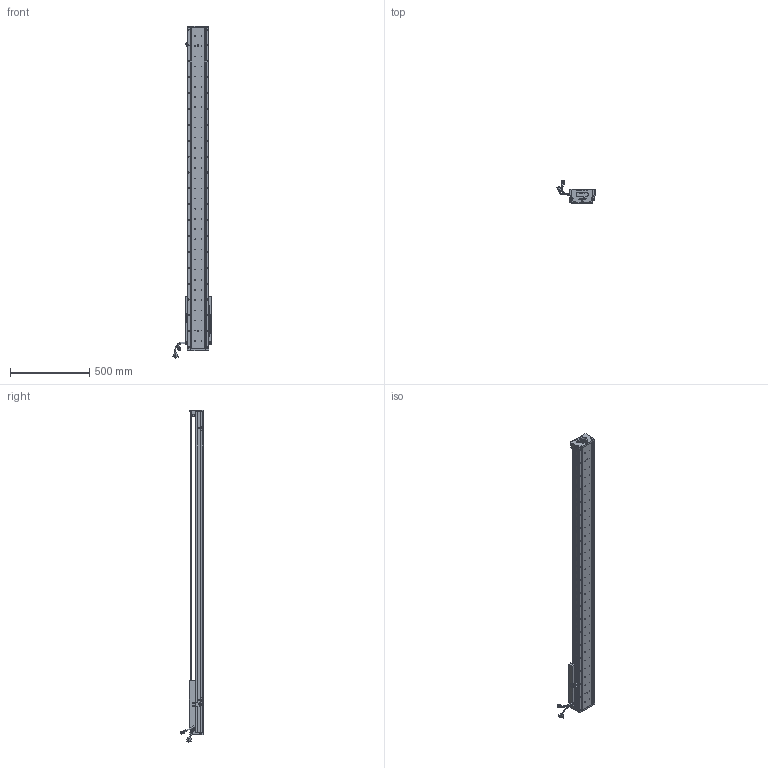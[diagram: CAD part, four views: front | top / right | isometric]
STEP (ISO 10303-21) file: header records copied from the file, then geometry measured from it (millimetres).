
FILE_DESCRIPTION (( 'STEP AP203' ), '1' );
FILE_NAME ('Z4-RY140D-1-L500-B-K.SLDASM_1650.step', '2021-05-17T08:17:08', ( '盈信电脑' ), ( '东莞市道滘镇水果街19号' ), 'SwSTEP 2.0', 'SolidWorks 2016', '' );
FILE_SCHEMA (( 'CONFIG_CONTROL_DESIGN' ));
Length unit declared in the file: millimetre
Products named in the file (36): HARNESS-Part-1; SCREW-M1.7; 140雄赽晤鎢ん堤盄; HARNESS; 080黍杅芛假蚾釱21遴; SEAL; Z-RY140感应器672光电感应片; SCREW-M1.7-1; SCREW-M1.6-3; SCREW-M1.6-1; COVER-Part-1; Z4-RY140D-1-L500-B-K.SLDASM_1650; SCALE; SCALE-Part-1; LABEL; PSLH080_PSLF2; Z-140詩湍傷裔啣; Z4-RY140圉猾敕臏賑輸(21遴); Z4-RY140-L500詩湍100mm遵_1650; 140-Z-臏賑輸盄裔(21遴); 詩湍狟揤裔; SCALE-Part-2; LABEL-Part-1; SHIELDPLATE; 140蚥薯蝶輸; HARNESS-Part-2; 榋妏寠巭燃_暯_M2_2; 覜茼ん672; SCREW-M1.6-2; 詩湍奻揤裔; HOLDER0; SCREW-M1.6; COVER; PBU_SHEET; Z4-RY140-L500直线电机模组底座_1650; SEAL-Part-1
Assembly tree (41 placements, depth 4):
  Z4-RY140D-1-L500-B-K.SLDASM_1650
    Z4-RY140-L500直线电机模组底座_1650
    Z-RY140感应器672光电感应片
    Z4-RY140圉猾敕臏賑輸(21遴)
    覜茼ん672  x3
    Z4-RY140-L500詩湍100mm遵_1650
    PSLH080_PSLF2
      SCALE
        SCALE-Part-1
        SCALE-Part-2
      HARNESS
        HARNESS-Part-1
        HARNESS-Part-2
      LABEL
        LABEL-Part-1
      COVER
        COVER-Part-1
      SEAL
        SEAL-Part-1
      榋妏寠巭燃_暯_M2_2
      SHIELDPLATE
      SCREW-M1.7
      SCREW-M1.7-1
      PBU_SHEET
      SCREW-M1.6
      SCREW-M1.6-1
      SCREW-M1.6-2
      SCREW-M1.6-3
      HOLDER0
    080黍杅芛假蚾釱21遴
    140-Z-臏賑輸盄裔(21遴)
    Z-140詩湍傷裔啣  x2
    詩湍狟揤裔  x2
    詩湍奻揤裔  x2
    140蚥薯蝶輸  x2
    140雄赽晤鎢ん堤盄
Bounding box: 239.84 x 143.88 x 2090.87 mm (x, y, z)
Volume: 7112363.4 mm3; surface area: 1829798.1 mm2
Topology: 36 solids, 36 shells, 3758 faces, 10144 edges, 6427 vertices
Faces by surface type: cylinder 1970, plane 1300, cone 366, torus 69, bspline 53
Entity records: 117048 total; most frequent: CARTESIAN_POINT 32293, ORIENTED_EDGE 17280, DIRECTION 16244, EDGE_CURVE 8640, AXIS2_PLACEMENT_3D 6026, VERTEX_POINT 5595, VECTOR 4192, LINE 4192
